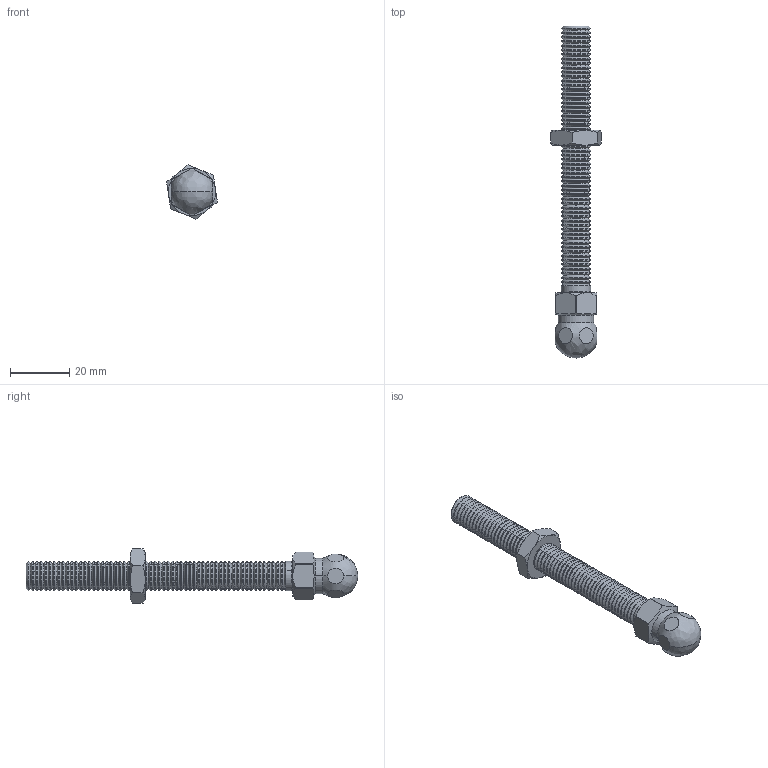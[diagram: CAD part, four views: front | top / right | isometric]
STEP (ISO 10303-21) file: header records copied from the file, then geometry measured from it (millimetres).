
FILE_DESCRIPTION (( 'STEP AP203' ), '1' );
FILE_NAME ('501390_Gewindestange mit Kugel M10x90.step', '2021-07-20T06:23:30', ( '' ), ( '' ), 'SwSTEP 2.0', 'SolidWorks 2021', '' );
FILE_SCHEMA (( 'CONFIG_CONTROL_DESIGN' ));
Length unit declared in the file: millimetre
Products named in the file (1): 501390_Gewindestange mit Kugel M10x90
Bounding box: 17.16 x 112.32 x 18.28 mm (x, y, z)
Volume: 11724.8 mm3; surface area: 7583.8 mm2
Topology: 5 solids, 5 shells, 543 faces, 1397 edges, 868 vertices
Faces by surface type: cone 342, cylinder 170, plane 27, bspline 2, torus 2
Entity records: 17211 total; most frequent: CARTESIAN_POINT 3335, DIRECTION 3262, ORIENTED_EDGE 2794, EDGE_CURVE 1397, AXIS2_PLACEMENT_3D 1375, VERTEX_POINT 868, CIRCLE 833, EDGE_LOOP 549
